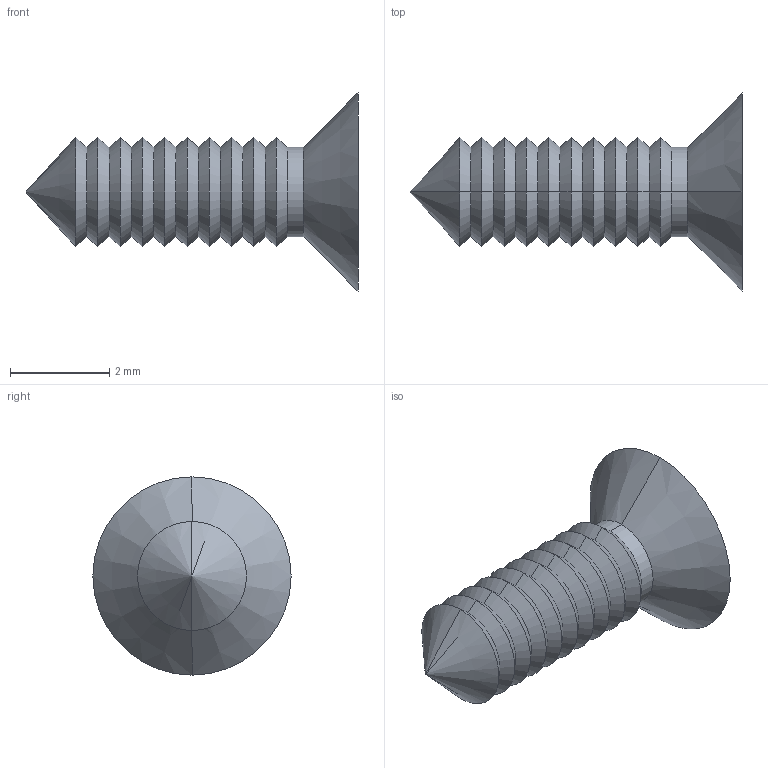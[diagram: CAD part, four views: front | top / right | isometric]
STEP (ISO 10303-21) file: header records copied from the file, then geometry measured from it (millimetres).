
FILE_DESCRIPTION (( 'STEP AP214' ), '1' );
FILE_NAME ('Cargol 2,2x6,5 DIN7982 PP26.STEP', '2018-07-02T07:41:49', ( 'aaa' ), ( '' ), 'SwSTEP 2.0', 'SolidWorks 2013', '' );
FILE_SCHEMA (( 'AUTOMOTIVE_DESIGN' ));
Length unit declared in the file: millimetre
Products named in the file (1): Cargol 2,2x6,5 DIN7982 PP26
Bounding box: 6.7 x 4 x 4 mm (x, y, z)
Volume: 22.4 mm3; surface area: 73.1 mm2
Topology: 1 solids, 1 shells, 58 faces, 126 edges, 69 vertices
Faces by surface type: cone 42, plane 14, cylinder 2
Entity records: 1558 total; most frequent: DIRECTION 286, CARTESIAN_POINT 252, ORIENTED_EDGE 248, EDGE_CURVE 124, AXIS2_PLACEMENT_3D 103, LINE 80, VECTOR 80, VERTEX_POINT 69
